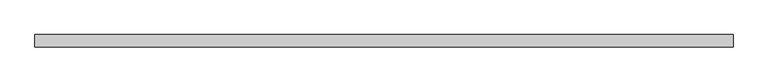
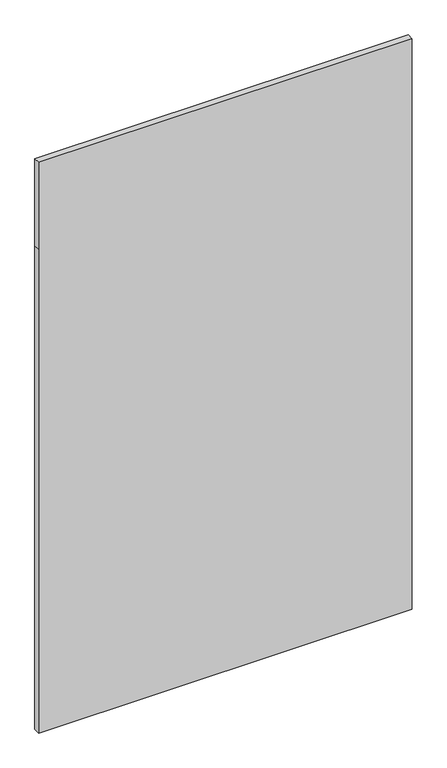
"""IFC4 building model written with IfcOpenShell, lengths in millimetres: plate geometry, Systémový panel : Zasklené."""

import ifcopenshell
import ifcopenshell.guid

model = None  # the IFC model being written
_history = None  # IfcOwnerHistory: only IFC2X3 demands one
_inside = {}  # id of a spatial element -> (the spatial element, [elements in it])
_under = {}  # id of a project, library or spatial element -> (it, [spatial elements below it])
_declared = {}  # id of a project -> (the project, [libraries it declares])
_typed = {}  # id of a type object -> (the type object, [elements of that type])
_made_of = {}  # id of a material, layer set ... -> (it, [elements and type objects made of it])


def new_model(schema):
    """Start an empty IFC model of exactly this schema.

    Asked for "IFC4X3", IfcOpenShell would pick the latest addendum, in which some entities
    have other attributes; the version numbers below select the first issue.
    IFC2X3 requires an IfcOwnerHistory on every rooted entity: one is made here for all.
    """
    global model, _history
    if schema == "IFC4X3":
        model = ifcopenshell.file(schema_version=(4, 3, 0, 0))
    else:
        model = ifcopenshell.file(schema=schema)
    _inside.clear()
    _under.clear()
    _declared.clear()
    _typed.clear()
    _made_of.clear()
    _history = None
    if model.schema == "IFC2X3":
        org = make("IfcOrganization", Name="unknown")
        user = make(
            "IfcPersonAndOrganization",
            ThePerson=make("IfcPerson", FamilyName="unknown"),
            TheOrganization=org,
        )
        app = make(
            "IfcApplication",
            ApplicationDeveloper=org,
            Version="unknown",
            ApplicationFullName="unknown",
            ApplicationIdentifier="unknown",
        )
        _history = make(
            "IfcOwnerHistory",
            OwningUser=user,
            OwningApplication=app,
            ChangeAction="ADDED",
            CreationDate=0,
        )
    return model


def make(cls, **values):
    """One entity of the class cls with the attributes given. An attribute that is None is left unset."""
    return model.create_entity(
        cls, **{name: value for name, value in values.items() if value is not None}
    )


def rooted(cls, **values):
    """An entity with a GlobalId (a new one), such as an element, a storey or a relation."""
    return make(cls, GlobalId=ifcopenshell.guid.new(), OwnerHistory=_history, **values)


def si_unit(unit_type, name, prefix=None):
    """IfcSIUnit, for example si_unit("LENGTHUNIT", "METRE", prefix="MILLI")."""
    return make("IfcSIUnit", UnitType=unit_type, Prefix=prefix, Name=name)


def assignment(units):
    """IfcUnitAssignment: the units of a project."""
    return None if units is None else make("IfcUnitAssignment", Units=units)


def point(xyz):
    """IfcCartesianPoint."""
    return None if xyz is None else make("IfcCartesianPoint", Coordinates=xyz)


def direction(xyz):
    """IfcDirection."""
    return None if xyz is None else make("IfcDirection", DirectionRatios=xyz)


def frame(location, z_axis=None, x_axis=None):
    """IfcAxis2Placement3D, a coordinate frame: its origin and axes. An axis left out is left unset."""
    return make(
        "IfcAxis2Placement3D",
        Location=point(location),
        Axis=direction(z_axis),
        RefDirection=direction(x_axis),
    )


def origin():
    """The frame at (0, 0, 0) with its axes left unset."""
    return frame((0.0, 0.0, 0.0))


def place(relative_to, where):
    """IfcLocalPlacement: puts the frame where relative to a parent placement (None: the world)."""
    return make(
        "IfcLocalPlacement", PlacementRelTo=relative_to, RelativePlacement=where
    )


def context(
    kind, dimensions, precision=None, world=None, true_north=None, identifier=None
):
    """IfcGeometricRepresentationContext, for example the 3D "Model" context."""
    return make(
        "IfcGeometricRepresentationContext",
        ContextIdentifier=identifier,
        ContextType=kind,
        CoordinateSpaceDimension=dimensions,
        Precision=precision,
        WorldCoordinateSystem=world,
        TrueNorth=true_north,
    )


def project(units=None, contexts=None):
    """IfcProject with its units and contexts."""
    return rooted(
        "IfcProject",
        Name="project",
        RepresentationContexts=contexts,
        UnitsInContext=assignment(units),
    )


def spatial(cls, under=None, at=None, **own):
    """A site, building, storey or space (cls), placed at a placement, below another one or the project."""
    s = rooted(cls, ObjectPlacement=at, **own)
    if under is not None:
        _under.setdefault(under.id(), (under, []))[1].append(s)
    return s


def polyline(points):
    """IfcPolyline through the points."""
    return make("IfcPolyline", Points=[point(p) for p in points])


def outline(outer, holes=None, kind="AREA"):
    """IfcArbitraryClosedProfileDef: a profile drawn as a closed curve; with holes, ...WithVoids."""
    if holes is None:
        return make("IfcArbitraryClosedProfileDef", ProfileType=kind, OuterCurve=outer)
    return make(
        "IfcArbitraryProfileDefWithVoids",
        ProfileType=kind,
        OuterCurve=outer,
        InnerCurves=holes,
    )


def extrude(swept, where, along, depth):
    """IfcExtrudedAreaSolid: the profile swept, set in the frame where, extruded along a direction by depth."""
    return make(
        "IfcExtrudedAreaSolid",
        SweptArea=swept,
        Position=where,
        ExtrudedDirection=direction(along),
        Depth=depth,
    )


def shape(context_of_items, identifier, shape_type, items):
    """IfcShapeRepresentation: the items that make up one representation, for example the "Body"."""
    return make(
        "IfcShapeRepresentation",
        ContextOfItems=context_of_items,
        RepresentationIdentifier=identifier,
        RepresentationType=shape_type,
        Items=items,
    )


def source(mapping_origin, context_of_items, identifier, shape_type, items):
    """IfcRepresentationMap: a shape defined once, which mapped items show again and again."""
    return make(
        "IfcRepresentationMap",
        MappingOrigin=mapping_origin,
        MappedRepresentation=shape(context_of_items, identifier, shape_type, items),
    )


def transform(
    local_origin,
    x_axis=None,
    y_axis=None,
    z_axis=None,
    scale=None,
    scale2=None,
    scale3=None,
    uniform=True,
):
    """IfcCartesianTransformationOperator3D, or its non-uniform kind. x_axis, y_axis, z_axis: its Axis1, 2, 3."""
    if uniform:
        return make(
            "IfcCartesianTransformationOperator3D",
            Axis1=direction(x_axis),
            Axis2=direction(y_axis),
            LocalOrigin=point(local_origin),
            Scale=scale,
            Axis3=direction(z_axis),
        )
    return make(
        "IfcCartesianTransformationOperator3DnonUniform",
        Axis1=direction(x_axis),
        Axis2=direction(y_axis),
        LocalOrigin=point(local_origin),
        Scale=scale,
        Axis3=direction(z_axis),
        Scale2=scale2,
        Scale3=scale3,
    )


def mapped(mapping_source, mapping_target):
    """IfcMappedItem: shows the shape of a source again, moved by a transform."""
    return make(
        "IfcMappedItem", MappingSource=mapping_source, MappingTarget=mapping_target
    )


def made_of(thing, what):
    """Note that an element or type object is made of a material, layer set ...; save() writes the relation."""
    if what is not None:
        _made_of.setdefault(what.id(), (what, []))[1].append(thing)
    return thing


def element(
    cls,
    number,
    at=None,
    inside=None,
    cuts=None,
    type_object=None,
    material=None,
    context=None,
    identifier="Body",
    shape_type=None,
    held_by="IfcProductDefinitionShape",
    body=None,
    shapes=None,
    **own,
):
    """One element of the class cls, such as IfcWall. Its Tag is "e" and its number.

    at: its placement. inside: the storey or other place that contains it. cuts: it is an
    opening in that element (IfcRelVoidsElement). A single representation is given by context,
    identifier, shape_type and body (its items); several are given by shapes. held_by: the class
    of the entity that holds the representations. save() writes the other relations.
    """
    e = rooted(cls, Tag="e%d" % number, ObjectPlacement=at, **own)
    if body is not None:
        shapes = [shape(context, identifier, shape_type, body)]
    if shapes is not None:
        e.Representation = make(held_by, Representations=shapes)
    if inside is not None:
        _inside.setdefault(inside.id(), (inside, []))[1].append(e)
    if cuts is not None:
        rooted(
            "IfcRelVoidsElement", RelatingBuildingElement=cuts, RelatedOpeningElement=e
        )
    if type_object is not None:
        _typed.setdefault(type_object.id(), (type_object, []))[1].append(e)
    return made_of(e, material)


def aggregate(whole, parts):
    """IfcRelAggregates: a whole, such as a stair, and the parts it consists of."""
    return rooted("IfcRelAggregates", RelatingObject=whole, RelatedObjects=parts)


def save(model, path):
    """Write the relations noted so far, then the file.

    IfcRelAggregates (storeys below a building ...), IfcRelContainedInSpatialStructure (elements
    in a storey), IfcRelDefinesByType, IfcRelAssociatesMaterial and IfcRelDeclares: one each for
    every whole, place, type object, material and project.
    """
    for whole, parts in _under.values():
        aggregate(whole, parts)
    for where, things in _inside.values():
        rooted(
            "IfcRelContainedInSpatialStructure",
            RelatedElements=things,
            RelatingStructure=where,
        )
    for kind, things in _typed.values():
        rooted("IfcRelDefinesByType", RelatedObjects=things, RelatingType=kind)
    for what, things in _made_of.values():
        rooted("IfcRelAssociatesMaterial", RelatedObjects=things, RelatingMaterial=what)
    for by, libraries in _declared.values():
        rooted("IfcRelDeclares", RelatingContext=by, RelatedDefinitions=libraries)
    model.write(path)


def plate_240b6e4f(model_context):
    return source(origin(), model_context, "Body", "SweptSolid", [
        extrude(outline(polyline([(0.0, -712.5), (0.0, 712.5), (1950.0, 712.5), (2300.0, 712.5), (2300.0, -712.5), (1950.0, -712.5), (0.0, -712.5)])), frame((0.0, 24.5, 0.0), z_axis=(0.0, 1.0, 0.0), x_axis=(0.0, 0.0, 1.0)), (0.0, 0.0, 1.0), 25.0),
    ])


if __name__ == "__main__":
    model = new_model("IFC4")
    model_context = context("Model", 3, world=origin())
    ifc_project = project(units=[si_unit("LENGTHUNIT", "METRE", prefix="MILLI")], contexts=[model_context])
    site = spatial("IfcSite", under=ifc_project)
    building = spatial("IfcBuilding", under=site)
    placement = place(None, origin())
    plate_shape = plate_240b6e4f(model_context)
    element("IfcPlate", 1, ObjectType="Systémový panel : Zasklené", at=placement, inside=building, context=model_context, shape_type="MappedRepresentation", body=[
        mapped(plate_shape, transform((0.0, 0.0, 0.0), x_axis=(1.0, 0.0, 0.0), y_axis=(0.0, 1.0, 0.0), z_axis=(0.0, 0.0, 1.0))),
    ])
    save(model, "model.ifc")
